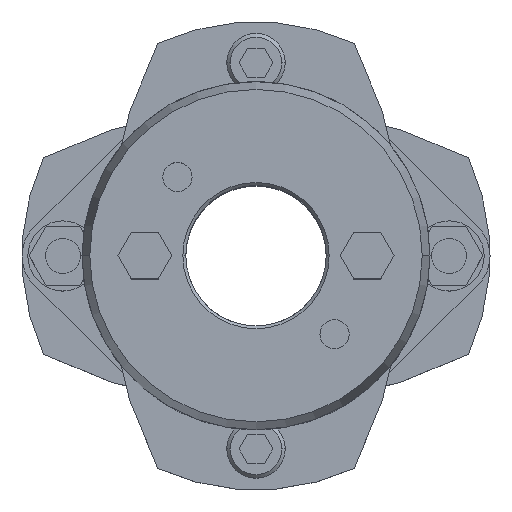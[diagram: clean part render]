
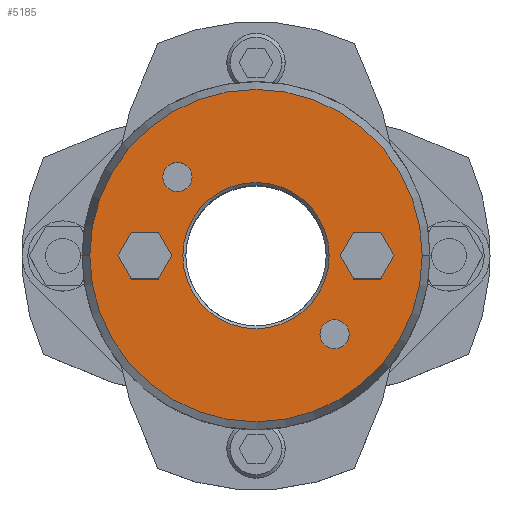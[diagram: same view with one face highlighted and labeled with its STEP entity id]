
A CAD part, top view. The second image highlights one B-rep face of the part: STEP entity #5185.
In plain terms, the highlighted planar face has unit normal (0, 0, 1).
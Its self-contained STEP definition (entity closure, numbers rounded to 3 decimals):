
#857=CARTESIAN_POINT('',(-12.5,0.,35.875));
#858=VERTEX_POINT('',#857);
#874=CARTESIAN_POINT('',(12.5,0.,35.875));
#875=VERTEX_POINT('',#874);
#882=CARTESIAN_POINT('',(0.,0.,35.875));
#883=DIRECTION('',(0.0,0.0,1.0));
#884=DIRECTION('',(-1.0,0.0,0.0));
#885=AXIS2_PLACEMENT_3D('',#882,#883,#884);
#886=CIRCLE('',#885,12.5);
#887=EDGE_CURVE('',#875,#858,#886,.T.);
#1003=CARTESIAN_POINT('',(28.41,0.,35.875));
#1004=VERTEX_POINT('',#1003);
#1013=CARTESIAN_POINT('',(-28.41,0.,35.875));
#1014=VERTEX_POINT('',#1013);
#1015=CARTESIAN_POINT('',(0.,0.,35.875));
#1016=DIRECTION('',(0.0,0.0,-1.0));
#1017=DIRECTION('',(1.0,0.0,0.0));
#1018=AXIS2_PLACEMENT_3D('',#1015,#1016,#1017);
#1019=CIRCLE('',#1018,28.41);
#1020=EDGE_CURVE('',#1004,#1014,#1019,.T.);
#1189=CARTESIAN_POINT('',(-15.935,13.435,35.875));
#1190=VERTEX_POINT('',#1189);
#1206=CARTESIAN_POINT('',(-10.935,13.435,35.875));
#1207=VERTEX_POINT('',#1206);
#1214=CARTESIAN_POINT('',(-13.435,13.435,35.875));
#1215=DIRECTION('',(0.0,0.0,-1.0));
#1216=DIRECTION('',(-1.0,0.0,0.0));
#1217=AXIS2_PLACEMENT_3D('',#1214,#1215,#1216);
#1218=CIRCLE('',#1217,2.5);
#1219=EDGE_CURVE('',#1190,#1207,#1218,.T.);
#1231=CARTESIAN_POINT('',(10.935,-13.435,35.875));
#1232=VERTEX_POINT('',#1231);
#1248=CARTESIAN_POINT('',(15.935,-13.435,35.875));
#1249=VERTEX_POINT('',#1248);
#1256=CARTESIAN_POINT('',(13.435,-13.435,35.875));
#1257=DIRECTION('',(0.0,0.0,-1.0));
#1258=DIRECTION('',(-1.0,0.0,0.0));
#1259=AXIS2_PLACEMENT_3D('',#1256,#1257,#1258);
#1260=CIRCLE('',#1259,2.5);
#1261=EDGE_CURVE('',#1232,#1249,#1260,.T.);
#4311=CARTESIAN_POINT('',(14.381,0.,35.875));
#4312=VERTEX_POINT('',#4311);
#4319=CARTESIAN_POINT('',(16.691,-4.,35.875));
#4320=VERTEX_POINT('',#4319);
#4321=CARTESIAN_POINT('',(16.691,-4.,35.875));
#4322=DIRECTION('',(-0.5,0.866,0.0));
#4323=VECTOR('',#4322,4.619);
#4324=LINE('',#4321,#4323);
#4325=EDGE_CURVE('',#4320,#4312,#4324,.T.);
#4349=CARTESIAN_POINT('',(16.691,4.,35.875));
#4350=VERTEX_POINT('',#4349);
#4357=CARTESIAN_POINT('',(14.381,0.,35.875));
#4358=DIRECTION('',(0.5,0.866,0.0));
#4359=VECTOR('',#4358,4.619);
#4360=LINE('',#4357,#4359);
#4361=EDGE_CURVE('',#4312,#4350,#4360,.T.);
#4380=CARTESIAN_POINT('',(21.309,4.,35.875));
#4381=VERTEX_POINT('',#4380);
#4388=CARTESIAN_POINT('',(16.691,4.,35.875));
#4389=DIRECTION('',(1.0,0.0,0.0));
#4390=VECTOR('',#4389,4.619);
#4391=LINE('',#4388,#4390);
#4392=EDGE_CURVE('',#4350,#4381,#4391,.T.);
#4411=CARTESIAN_POINT('',(23.619,0.,35.875));
#4412=VERTEX_POINT('',#4411);
#4419=CARTESIAN_POINT('',(21.309,4.,35.875));
#4420=DIRECTION('',(0.5,-0.866,0.0));
#4421=VECTOR('',#4420,4.619);
#4422=LINE('',#4419,#4421);
#4423=EDGE_CURVE('',#4381,#4412,#4422,.T.);
#4442=CARTESIAN_POINT('',(21.309,-4.,35.875));
#4443=VERTEX_POINT('',#4442);
#4450=CARTESIAN_POINT('',(23.619,0.,35.875));
#4451=DIRECTION('',(-0.5,-0.866,0.0));
#4452=VECTOR('',#4451,4.619);
#4453=LINE('',#4450,#4452);
#4454=EDGE_CURVE('',#4412,#4443,#4453,.T.);
#4472=CARTESIAN_POINT('',(21.309,-4.,35.875));
#4473=DIRECTION('',(-1.0,0.0,0.0));
#4474=VECTOR('',#4473,4.619);
#4475=LINE('',#4472,#4474);
#4476=EDGE_CURVE('',#4443,#4320,#4475,.T.);
#4511=CARTESIAN_POINT('',(-23.619,0.,35.875));
#4512=VERTEX_POINT('',#4511);
#4519=CARTESIAN_POINT('',(-21.309,-4.,35.875));
#4520=VERTEX_POINT('',#4519);
#4521=CARTESIAN_POINT('',(-21.309,-4.,35.875));
#4522=DIRECTION('',(-0.5,0.866,0.0));
#4523=VECTOR('',#4522,4.619);
#4524=LINE('',#4521,#4523);
#4525=EDGE_CURVE('',#4520,#4512,#4524,.T.);
#4549=CARTESIAN_POINT('',(-21.309,4.,35.875));
#4550=VERTEX_POINT('',#4549);
#4557=CARTESIAN_POINT('',(-23.619,0.,35.875));
#4558=DIRECTION('',(0.5,0.866,0.0));
#4559=VECTOR('',#4558,4.619);
#4560=LINE('',#4557,#4559);
#4561=EDGE_CURVE('',#4512,#4550,#4560,.T.);
#4580=CARTESIAN_POINT('',(-16.691,4.,35.875));
#4581=VERTEX_POINT('',#4580);
#4588=CARTESIAN_POINT('',(-21.309,4.,35.875));
#4589=DIRECTION('',(1.0,0.0,0.0));
#4590=VECTOR('',#4589,4.619);
#4591=LINE('',#4588,#4590);
#4592=EDGE_CURVE('',#4550,#4581,#4591,.T.);
#4611=CARTESIAN_POINT('',(-14.381,0.,35.875));
#4612=VERTEX_POINT('',#4611);
#4619=CARTESIAN_POINT('',(-16.691,4.,35.875));
#4620=DIRECTION('',(0.5,-0.866,0.0));
#4621=VECTOR('',#4620,4.619);
#4622=LINE('',#4619,#4621);
#4623=EDGE_CURVE('',#4581,#4612,#4622,.T.);
#4642=CARTESIAN_POINT('',(-16.691,-4.,35.875));
#4643=VERTEX_POINT('',#4642);
#4650=CARTESIAN_POINT('',(-14.381,0.,35.875));
#4651=DIRECTION('',(-0.5,-0.866,0.0));
#4652=VECTOR('',#4651,4.619);
#4653=LINE('',#4650,#4652);
#4654=EDGE_CURVE('',#4612,#4643,#4653,.T.);
#4672=CARTESIAN_POINT('',(-16.691,-4.,35.875));
#4673=DIRECTION('',(-1.0,0.0,0.0));
#4674=VECTOR('',#4673,4.619);
#4675=LINE('',#4672,#4674);
#4676=EDGE_CURVE('',#4643,#4520,#4675,.T.);
#4702=CARTESIAN_POINT('',(13.435,-13.435,35.875));
#4703=DIRECTION('',(0.0,0.0,-1.0));
#4704=DIRECTION('',(-1.0,0.0,0.0));
#4705=AXIS2_PLACEMENT_3D('',#4702,#4703,#4704);
#4706=CIRCLE('',#4705,2.5);
#4707=EDGE_CURVE('',#1249,#1232,#4706,.T.);
#4736=CARTESIAN_POINT('',(-13.435,13.435,35.875));
#4737=DIRECTION('',(0.0,0.0,-1.0));
#4738=DIRECTION('',(-1.0,0.0,0.0));
#4739=AXIS2_PLACEMENT_3D('',#4736,#4737,#4738);
#4740=CIRCLE('',#4739,2.5);
#4741=EDGE_CURVE('',#1207,#1190,#4740,.T.);
#5132=CARTESIAN_POINT('',(0.,0.,35.875));
#5133=DIRECTION('',(0.0,0.0,-1.0));
#5134=DIRECTION('',(1.0,0.0,0.0));
#5135=AXIS2_PLACEMENT_3D('',#5132,#5133,#5134);
#5136=CIRCLE('',#5135,28.41);
#5137=EDGE_CURVE('',#1014,#1004,#5136,.T.);
#5142=CARTESIAN_POINT('',(-2.364,0.,35.875));
#5143=DIRECTION('',(0.0,0.0,1.0));
#5144=DIRECTION('',(-1.0,0.0,0.0));
#5145=AXIS2_PLACEMENT_3D('',#5142,#5143,#5144);
#5146=PLANE('',#5145);
#5147=ORIENTED_EDGE('',*,*,#5137,.F.);
#5148=ORIENTED_EDGE('',*,*,#1020,.F.);
#5149=EDGE_LOOP('',(#5147,#5148));
#5150=FACE_OUTER_BOUND('',#5149,.T.);
#5151=ORIENTED_EDGE('',*,*,#4325,.T.);
#5152=ORIENTED_EDGE('',*,*,#4361,.T.);
#5153=ORIENTED_EDGE('',*,*,#4392,.T.);
#5154=ORIENTED_EDGE('',*,*,#4423,.T.);
#5155=ORIENTED_EDGE('',*,*,#4454,.T.);
#5156=ORIENTED_EDGE('',*,*,#4476,.T.);
#5157=EDGE_LOOP('',(#5151,#5152,#5153,#5154,#5155,#5156));
#5158=FACE_BOUND('',#5157,.T.);
#5159=ORIENTED_EDGE('',*,*,#4525,.T.);
#5160=ORIENTED_EDGE('',*,*,#4561,.T.);
#5161=ORIENTED_EDGE('',*,*,#4592,.T.);
#5162=ORIENTED_EDGE('',*,*,#4623,.T.);
#5163=ORIENTED_EDGE('',*,*,#4654,.T.);
#5164=ORIENTED_EDGE('',*,*,#4676,.T.);
#5165=EDGE_LOOP('',(#5159,#5160,#5161,#5162,#5163,#5164));
#5166=FACE_BOUND('',#5165,.T.);
#5167=ORIENTED_EDGE('',*,*,#1261,.T.);
#5168=ORIENTED_EDGE('',*,*,#4707,.T.);
#5169=EDGE_LOOP('',(#5167,#5168));
#5170=FACE_BOUND('',#5169,.T.);
#5171=ORIENTED_EDGE('',*,*,#1219,.T.);
#5172=ORIENTED_EDGE('',*,*,#4741,.T.);
#5173=EDGE_LOOP('',(#5171,#5172));
#5174=FACE_BOUND('',#5173,.T.);
#5175=ORIENTED_EDGE('',*,*,#887,.F.);
#5176=CARTESIAN_POINT('',(0.,0.,35.875));
#5177=DIRECTION('',(0.0,0.0,1.0));
#5178=DIRECTION('',(-1.0,0.0,0.0));
#5179=AXIS2_PLACEMENT_3D('',#5176,#5177,#5178);
#5180=CIRCLE('',#5179,12.5);
#5181=EDGE_CURVE('',#858,#875,#5180,.T.);
#5182=ORIENTED_EDGE('',*,*,#5181,.F.);
#5183=EDGE_LOOP('',(#5175,#5182));
#5184=FACE_BOUND('',#5183,.T.);
#5185=ADVANCED_FACE('',(#5150,#5158,#5166,#5170,#5174,#5184),#5146,.T.);
